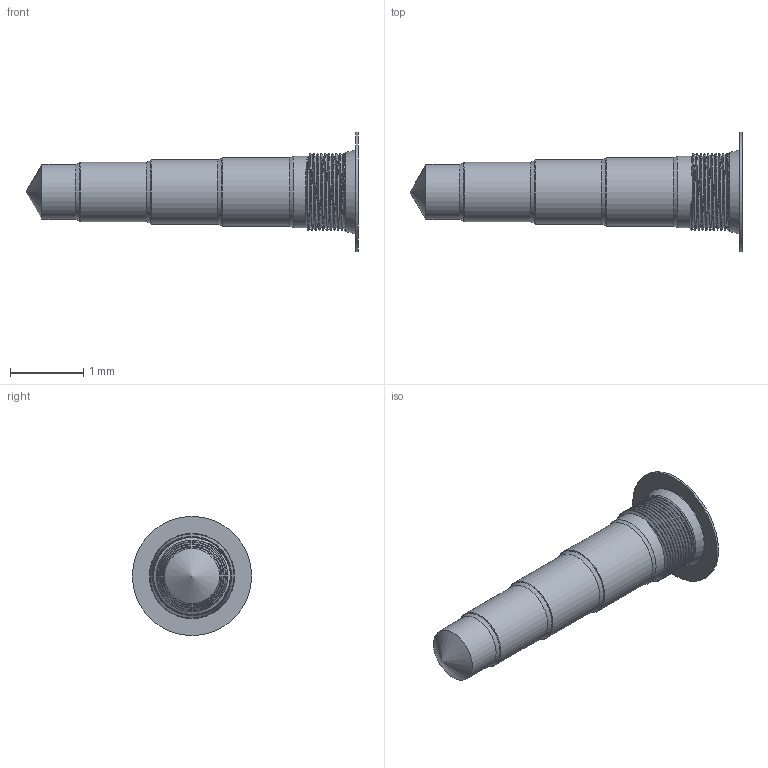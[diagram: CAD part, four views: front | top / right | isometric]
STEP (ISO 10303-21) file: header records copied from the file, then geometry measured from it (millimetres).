
FILE_DESCRIPTION(/* description */ (''),/* implementation_level */ '2;1');
FILE_NAME(/* name */ '\\tecnord.com\reparti\25-CAD_3D\ATTREZZATURE\Cavità\Tecnord 5WS.stp',/* time_stamp */ '2016-12-06T11:50:11+01:00',/* author */ ('gmonti'),/* organization */ (''),/* preprocessor_version */ 'ST-DEVELOPER v16.1',/* originating_system */ 'Autodesk Inventor 2016',/* authorisation */ '');
FILE_SCHEMA (('AUTOMOTIVE_DESIGN { 1 0 10303 214 3 1 1 }'));
Length unit declared in the file: millimetre
Products named in the file (1): Tecnord 5WS
Bounding box: 4.53 x 1.62 x 1.62 mm (x, y, z)
Volume: 2.8 mm3; surface area: 17.3 mm2
Topology: 1 solids, 1 shells, 29 faces, 63 edges, 39 vertices
Faces by surface type: cone 10, cylinder 6, torus 5, plane 5, bspline 3
Full cylindrical faces by diameter (mm): 0.751 x1, 0.813 x1, 0.876 x1, 0.938 x1, 0.975 x1, 1.625 x1
Entity records: 2136 total; most frequent: CARTESIAN_POINT 1608, DIRECTION 99, ORIENTED_EDGE 82, AXIS2_PLACEMENT_3D 49, EDGE_LOOP 48, EDGE_CURVE 41, VERTEX_POINT 35, FACE_OUTER_BOUND 28
